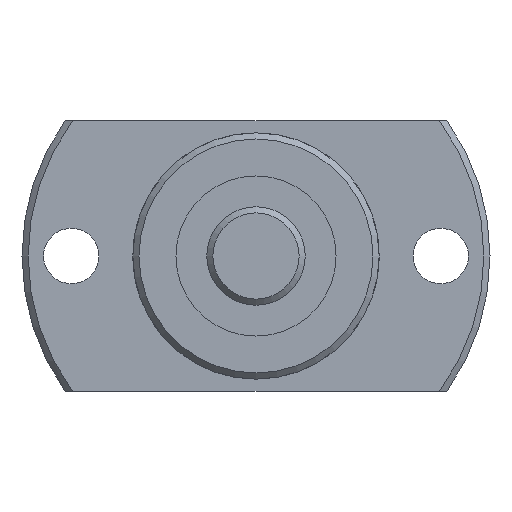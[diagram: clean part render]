
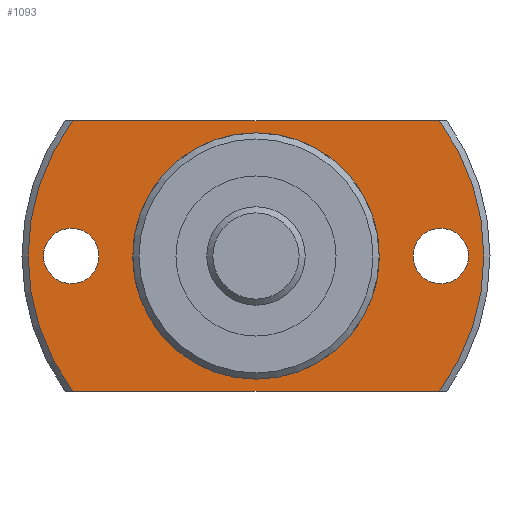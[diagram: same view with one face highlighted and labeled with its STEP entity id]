
A CAD part, left-side view. The second image highlights one B-rep face of the part: STEP entity #1093.
In plain terms, the highlighted planar face has unit normal (-1, 0, 0).
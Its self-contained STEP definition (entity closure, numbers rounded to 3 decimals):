
#110=CIRCLE('',#1212,9.85);
#113=CIRCLE('',#1216,18.5);
#119=CIRCLE('',#1227,2.25);
#120=CIRCLE('',#1228,2.25);
#121=CIRCLE('',#1229,18.5);
#249=ORIENTED_EDGE('',*,*,#509,.T.);
#250=ORIENTED_EDGE('',*,*,#510,.T.);
#251=ORIENTED_EDGE('',*,*,#498,.F.);
#252=ORIENTED_EDGE('',*,*,#511,.T.);
#253=ORIENTED_EDGE('',*,*,#512,.F.);
#254=ORIENTED_EDGE('',*,*,#513,.T.);
#255=ORIENTED_EDGE('',*,*,#492,.T.);
#492=EDGE_CURVE('',#631,#631,#110,.T.);
#498=EDGE_CURVE('',#636,#637,#113,.T.);
#509=EDGE_CURVE('',#646,#646,#119,.T.);
#510=EDGE_CURVE('',#647,#647,#120,.T.);
#511=EDGE_CURVE('',#636,#648,#721,.T.);
#512=EDGE_CURVE('',#649,#648,#121,.T.);
#513=EDGE_CURVE('',#649,#637,#722,.T.);
#631=VERTEX_POINT('',#1776);
#636=VERTEX_POINT('',#1790);
#637=VERTEX_POINT('',#1792);
#646=VERTEX_POINT('',#1826);
#647=VERTEX_POINT('',#1828);
#648=VERTEX_POINT('',#1830);
#649=VERTEX_POINT('',#1832);
#721=LINE('',#1829,#781);
#722=LINE('',#1833,#782);
#781=VECTOR('',#1464,1000.);
#782=VECTOR('',#1467,1000.);
#861=EDGE_LOOP('',(#249));
#862=EDGE_LOOP('',(#250));
#863=EDGE_LOOP('',(#251,#252,#253,#254));
#864=EDGE_LOOP('',(#255));
#967=FACE_BOUND('',#861,.T.);
#968=FACE_BOUND('',#862,.T.);
#969=FACE_BOUND('',#863,.T.);
#970=FACE_BOUND('',#864,.T.);
#1041=PLANE('',#1226);
#1093=ADVANCED_FACE('',(#967,#968,#969,#970),#1041,.F.);
#1212=AXIS2_PLACEMENT_3D('',#1775,#1426,#1427);
#1216=AXIS2_PLACEMENT_3D('',#1791,#1436,#1437);
#1226=AXIS2_PLACEMENT_3D('',#1824,#1458,#1459);
#1227=AXIS2_PLACEMENT_3D('',#1825,#1460,#1461);
#1228=AXIS2_PLACEMENT_3D('',#1827,#1462,#1463);
#1229=AXIS2_PLACEMENT_3D('',#1831,#1465,#1466);
#1426=DIRECTION('',(1.,0.,0.));
#1427=DIRECTION('',(0.,0.,-1.));
#1436=DIRECTION('',(1.,0.,0.));
#1437=DIRECTION('',(0.,0.,-1.));
#1458=DIRECTION('',(1.,0.,0.));
#1459=DIRECTION('',(0.,0.,-1.));
#1460=DIRECTION('',(1.,0.,0.));
#1461=DIRECTION('',(0.,0.,-1.));
#1462=DIRECTION('',(1.,0.,0.));
#1463=DIRECTION('',(0.,0.,-1.));
#1464=DIRECTION('',(0.,-1.,0.));
#1465=DIRECTION('',(1.,0.,0.));
#1466=DIRECTION('',(0.,0.,-1.));
#1467=DIRECTION('',(0.,1.,0.));
#1775=CARTESIAN_POINT('',(19.,0.,0.));
#1776=CARTESIAN_POINT('',(19.,0.,-9.85));
#1790=CARTESIAN_POINT('',(19.,14.874,-11.));
#1791=CARTESIAN_POINT('',(19.,0.,0.));
#1792=CARTESIAN_POINT('',(19.,14.874,11.));
#1824=CARTESIAN_POINT('',(19.,9.85,0.));
#1825=CARTESIAN_POINT('',(19.,-15.,0.));
#1826=CARTESIAN_POINT('',(19.,-15.,-2.25));
#1827=CARTESIAN_POINT('',(19.,15.,0.));
#1828=CARTESIAN_POINT('',(19.,15.,-2.25));
#1829=CARTESIAN_POINT('',(19.,9.85,-11.));
#1830=CARTESIAN_POINT('',(19.,-14.874,-11.));
#1831=CARTESIAN_POINT('',(19.,0.,0.));
#1832=CARTESIAN_POINT('',(19.,-14.874,11.));
#1833=CARTESIAN_POINT('',(19.,9.85,11.));
